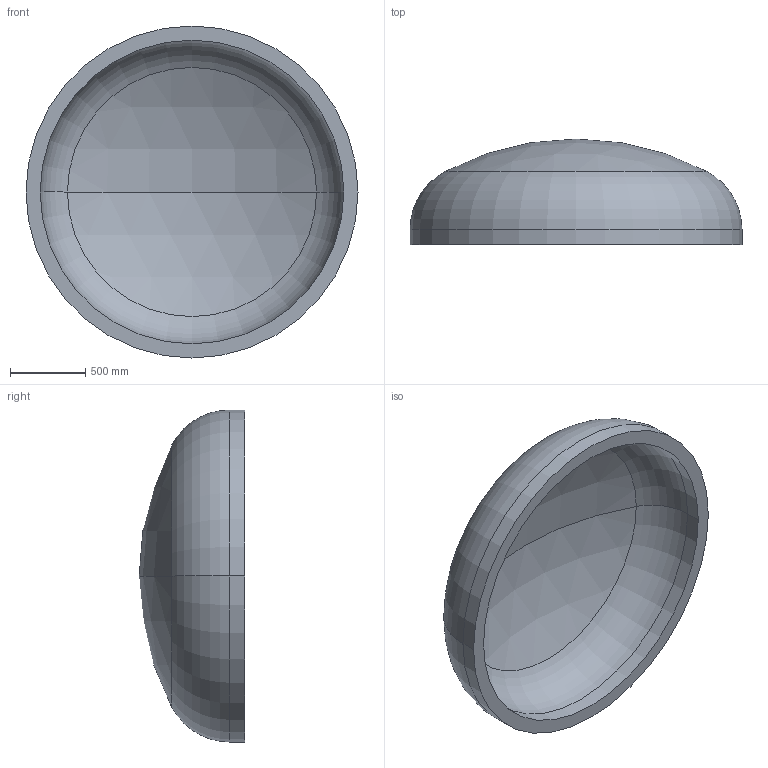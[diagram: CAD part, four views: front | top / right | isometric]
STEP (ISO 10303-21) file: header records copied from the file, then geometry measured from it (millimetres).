
FILE_DESCRIPTION (( 'STEP AP203' ), '1' );
FILE_NAME ('DIN 28013 Korbbogenform_-_Boden DIN 28013 - 2200 x 100 - I - s=94.step', '2016-07-01T14:52:30', ( '' ), ( '' ), 'SwSTEP 2.0', 'SolidWorks 2013', '' );
FILE_SCHEMA (( 'CONFIG_CONTROL_DESIGN' ));
Length unit declared in the file: millimetre
Products named in the file (1): DIN 28013 Korbbogenform_-_Boden DIN 28013 - 2200 x 100 - I - s=94
Bounding box: 2200 x 699.87 x 2200 mm (x, y, z)
Volume: 530824703.1 mm3; surface area: 11934567.7 mm2
Topology: 1 solids, 1 shells, 13 faces, 24 edges, 14 vertices
Faces by surface type: torus 4, cylinder 4, sphere 4, plane 1
Entity records: 407 total; most frequent: DIRECTION 72, CARTESIAN_POINT 52, ORIENTED_EDGE 48, AXIS2_PLACEMENT_3D 34, EDGE_CURVE 24, CIRCLE 20, EDGE_LOOP 14, VERTEX_POINT 14
